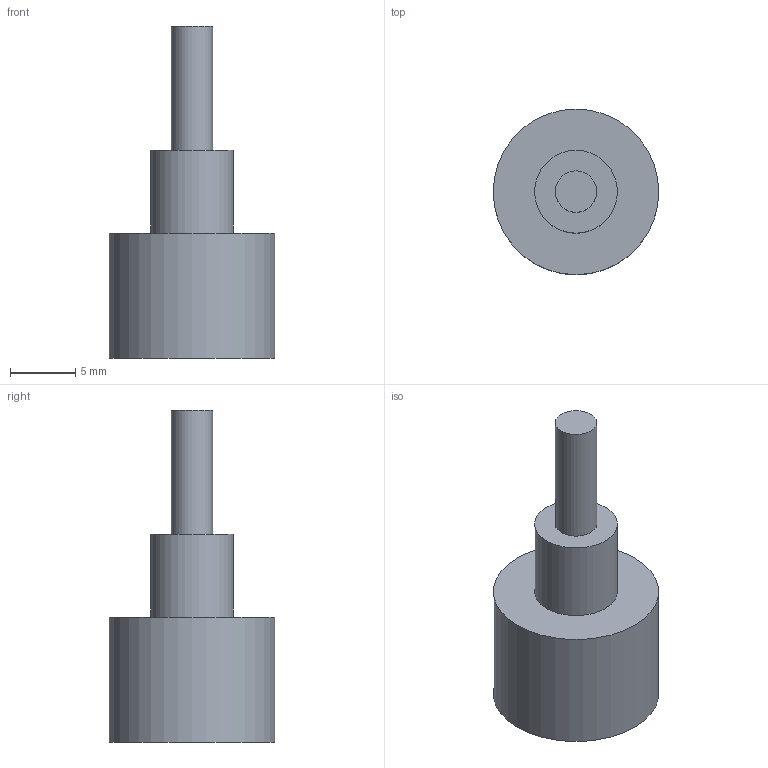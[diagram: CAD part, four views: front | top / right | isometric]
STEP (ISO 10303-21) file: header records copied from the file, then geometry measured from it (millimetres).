
FILE_DESCRIPTION(('Open CASCADE Model'),'2;1');
FILE_NAME('Open CASCADE Shape Model','2026-10-29T21:33:44',('Author'),( 'Open CASCADE'),'Open CASCADE STEP processor 8.0','Open CASCADE 8.0' ,'Unknown');
FILE_SCHEMA(('AUTOMOTIVE_DESIGN { 1 0 10303 214 1 1 1 1 }'));
Length unit declared in the file: millimetre
Products named in the file (4): Open CASCADE STEP translator 8.0 1; Open CASCADE STEP translator 8.0 1.1; Open CASCADE STEP translator 8.0 1.2; Open CASCADE STEP translator 8.0 1.3
Assembly tree (3 placements, depth 2):
  Open CASCADE STEP translator 8.0 1
    Open CASCADE STEP translator 8.0 1.1
    Open CASCADE STEP translator 8.0 1.2
    Open CASCADE STEP translator 8.0 1.3
Bounding box: 12.7 x 12.7 x 25.46 mm (x, y, z)
Volume: 1490.4 mm3; surface area: 936.7 mm2
Topology: 3 solids, 3 shells, 9 faces, 9 edges, 6 vertices
Faces by surface type: plane 6, cylinder 3
Full cylindrical faces by diameter (mm): 3.18 x1, 6.35 x1, 12.7 x1
Entity records: 346 total; most frequent: DIRECTION 59, CARTESIAN_POINT 46, AXIS2_PLACEMENT_3D 19, ORIENTED_EDGE 18, PCURVE 18, DEFINITIONAL_REPRESENTATION 18, LINE 15, VECTOR 15
